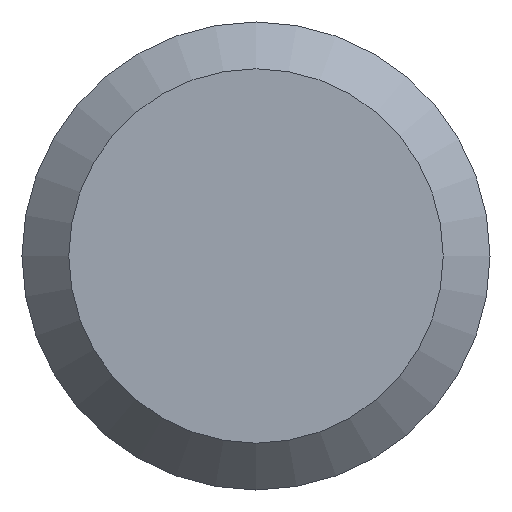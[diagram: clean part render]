
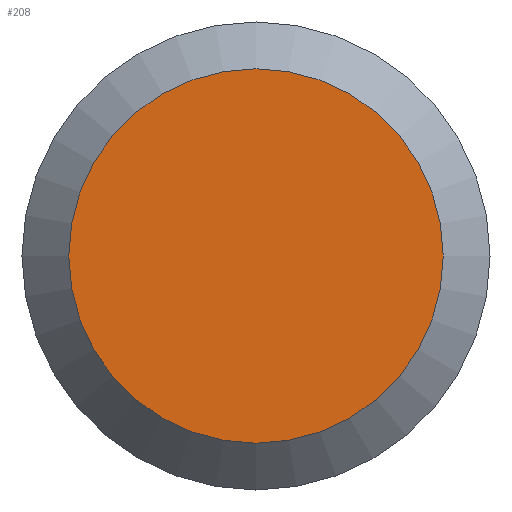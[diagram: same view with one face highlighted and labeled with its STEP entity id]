
A CAD part, left-side view. The second image highlights one B-rep face of the part: STEP entity #208.
In plain terms, the highlighted planar face has unit normal (-1, 0, 0).
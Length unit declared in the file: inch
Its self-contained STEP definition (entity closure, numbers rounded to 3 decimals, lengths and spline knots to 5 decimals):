
#2 = DIRECTION ( 'NONE',  ( -1., 0., 0. ) ) ;
#14 = ORIENTED_EDGE ( 'NONE', *, *, #79, .T. ) ;
#40 = DIRECTION ( 'NONE',  ( 0., 0., -1. ) ) ;
#41 = VERTEX_POINT ( 'NONE', #144 ) ;
#56 = CARTESIAN_POINT ( 'NONE',  ( 0., 0.0445, 0. ) ) ;
#79 = EDGE_CURVE ( 'NONE', #41, #41, #108, .T. ) ;
#108 = CIRCLE ( 'NONE', #133, 0.0356 ) ;
#133 = AXIS2_PLACEMENT_3D ( 'NONE', #185, #2, #40 ) ;
#139 = FACE_OUTER_BOUND ( 'NONE', #249, .T. ) ;
#144 = CARTESIAN_POINT ( 'NONE',  ( 0., 0., -0.0356 ) ) ;
#159 = DIRECTION ( 'NONE',  ( 0., 0., -1. ) ) ;
#170 = DIRECTION ( 'NONE',  ( 1., 0., 0. ) ) ;
#185 = CARTESIAN_POINT ( 'NONE',  ( 0., 0., 0. ) ) ;
#198 = PLANE ( 'NONE',  #246 ) ;
#208 = ADVANCED_FACE ( 'NONE', ( #139 ), #198, .F. ) ;
#246 = AXIS2_PLACEMENT_3D ( 'NONE', #56, #170, #159 ) ;
#249 = EDGE_LOOP ( 'NONE', ( #14 ) ) ;
